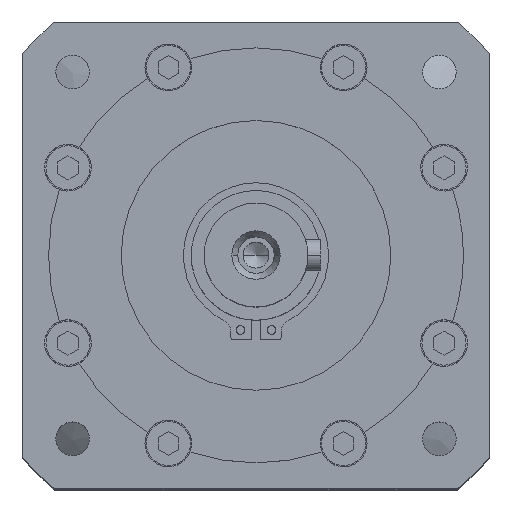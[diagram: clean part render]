
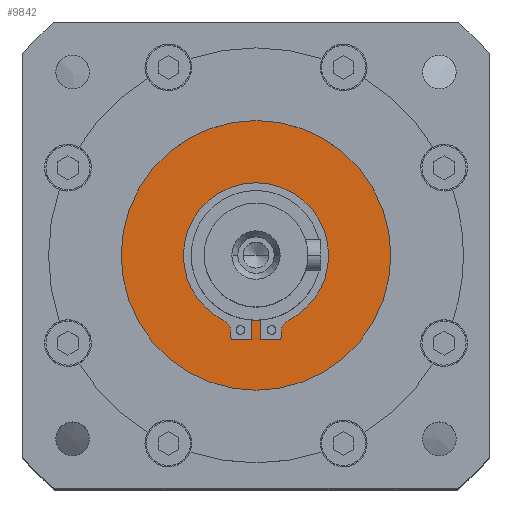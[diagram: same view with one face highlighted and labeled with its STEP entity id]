
A CAD part, top view. The second image highlights one B-rep face of the part: STEP entity #9842.
In plain terms, the highlighted planar face has unit normal (0, 0, 1).
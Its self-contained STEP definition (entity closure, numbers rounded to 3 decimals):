
#65 = ORIENTED_EDGE ( 'NONE', *, *, #7289, .F. ) ;
#89 = DIRECTION ( 'NONE',  ( 1., 0., 0. ) ) ;
#265 = ORIENTED_EDGE ( 'NONE', *, *, #21924, .F. ) ;
#488 = VERTEX_POINT ( 'NONE', #16577 ) ;
#662 = EDGE_CURVE ( 'NONE', #33881, #4676, #13070, .T. ) ;
#1278 = VECTOR ( 'NONE', #43648, 1000. ) ;
#1574 = DIRECTION ( 'NONE',  ( -1., 0., 0. ) ) ;
#1916 = ORIENTED_EDGE ( 'NONE', *, *, #36911, .F. ) ;
#2053 = DIRECTION ( 'NONE',  ( 0., 0., 1. ) ) ;
#2563 = VECTOR ( 'NONE', #11032, 1000. ) ;
#2953 = LINE ( 'NONE', #37820, #30854 ) ;
#3132 = VERTEX_POINT ( 'NONE', #44841 ) ;
#3639 = CARTESIAN_POINT ( 'NONE',  ( 4.85, 0., -2.5 ) ) ;
#3678 = LINE ( 'NONE', #3697, #2563 ) ;
#3697 = CARTESIAN_POINT ( 'NONE',  ( 0., -16.271, -2.5 ) ) ;
#4063 = DIRECTION ( 'NONE',  ( 0., -1., 0. ) ) ;
#4676 = VERTEX_POINT ( 'NONE', #22141 ) ;
#4718 = EDGE_CURVE ( 'NONE', #17378, #30453, #9971, .T. ) ;
#5019 = CARTESIAN_POINT ( 'NONE',  ( 0.85, -12.471, -2.5 ) ) ;
#5221 = AXIS2_PLACEMENT_3D ( 'NONE', #45286, #41747, #19936 ) ;
#6482 = VECTOR ( 'NONE', #4063, 1000. ) ;
#7289 = EDGE_CURVE ( 'NONE', #28209, #11362, #31799, .T. ) ;
#7810 = CARTESIAN_POINT ( 'NONE',  ( -7.35, -14.773, -2.5 ) ) ;
#8054 = ORIENTED_EDGE ( 'NONE', *, *, #36641, .F. ) ;
#8396 = CARTESIAN_POINT ( 'NONE',  ( 0.85, -16.271, -2.5 ) ) ;
#8451 = ORIENTED_EDGE ( 'NONE', *, *, #41977, .F. ) ;
#8744 = CARTESIAN_POINT ( 'NONE',  ( -0.85, -12.471, -2.5 ) ) ;
#8777 = CIRCLE ( 'NONE', #9508, 0.5 ) ;
#8873 = AXIS2_PLACEMENT_3D ( 'NONE', #32704, #10916, #36369 ) ;
#9294 = ORIENTED_EDGE ( 'NONE', *, *, #662, .T. ) ;
#9508 = AXIS2_PLACEMENT_3D ( 'NONE', #12225, #37668, #15893 ) ;
#9656 = ORIENTED_EDGE ( 'NONE', *, *, #13718, .F. ) ;
#9842 = ADVANCED_FACE ( 'NONE', ( #22574, #40799 ), #38069, .F. ) ;
#9971 = LINE ( 'NONE', #40282, #37857 ) ;
#10133 = VERTEX_POINT ( 'NONE', #26243 ) ;
#10299 = CARTESIAN_POINT ( 'NONE',  ( 26., 0., -2.5 ) ) ;
#10916 = DIRECTION ( 'NONE',  ( 0., 0., 1. ) ) ;
#11023 = EDGE_CURVE ( 'NONE', #46406, #28209, #3678, .T. ) ;
#11032 = DIRECTION ( 'NONE',  ( 1., 0., 0. ) ) ;
#11152 = DIRECTION ( 'NONE',  ( 0., 1., 0. ) ) ;
#11362 = VERTEX_POINT ( 'NONE', #27379 ) ;
#11470 = DIRECTION ( 'NONE',  ( -1., 0., 0. ) ) ;
#12225 = CARTESIAN_POINT ( 'NONE',  ( -4.35, -15.771, -2.5 ) ) ;
#12287 = DIRECTION ( 'NONE',  ( 0., 0., 1. ) ) ;
#12324 = AXIS2_PLACEMENT_3D ( 'NONE', #43770, #21922, #89 ) ;
#12382 = AXIS2_PLACEMENT_3D ( 'NONE', #13816, #39255, #17462 ) ;
#13070 = CIRCLE ( 'NONE', #20183, 26. ) ;
#13221 = EDGE_LOOP ( 'NONE', ( #9656, #19586, #16588, #8054, #22716, #8451, #265, #40372, #1916, #65, #41884, #31838, #46533, #36932 ) ) ;
#13718 = EDGE_CURVE ( 'NONE', #15017, #17378, #2953, .T. ) ;
#13807 = EDGE_LOOP ( 'NONE', ( #9294, #36450 ) ) ;
#13816 = CARTESIAN_POINT ( 'NONE',  ( 0., 0., -2.5 ) ) ;
#14234 = VERTEX_POINT ( 'NONE', #44973 ) ;
#15017 = VERTEX_POINT ( 'NONE', #34908 ) ;
#15501 = CARTESIAN_POINT ( 'NONE',  ( 4.85, -14.773, -2.5 ) ) ;
#15645 = CIRCLE ( 'NONE', #33838, 14. ) ;
#15893 = DIRECTION ( 'NONE',  ( -1., 0., 0. ) ) ;
#16201 = LINE ( 'NONE', #33169, #6482 ) ;
#16577 = CARTESIAN_POINT ( 'NONE',  ( -6.236, -12.534, -2.5 ) ) ;
#16588 = ORIENTED_EDGE ( 'NONE', *, *, #42269, .F. ) ;
#17378 = VERTEX_POINT ( 'NONE', #34172 ) ;
#17462 = DIRECTION ( 'NONE',  ( -1., 0., 0. ) ) ;
#18337 = DIRECTION ( 'NONE',  ( 0., 0., -1. ) ) ;
#18864 = CARTESIAN_POINT ( 'NONE',  ( 0.85, 0., -2.5 ) ) ;
#18967 = EDGE_CURVE ( 'NONE', #4676, #33881, #42110, .T. ) ;
#18983 = CIRCLE ( 'NONE', #23723, 2.5 ) ;
#19586 = ORIENTED_EDGE ( 'NONE', *, *, #41208, .F. ) ;
#19838 = VERTEX_POINT ( 'NONE', #23094 ) ;
#19936 = DIRECTION ( 'NONE',  ( -1., 0., 0. ) ) ;
#20183 = AXIS2_PLACEMENT_3D ( 'NONE', #34047, #12287, #37732 ) ;
#20329 = DIRECTION ( 'NONE',  ( 0., 0., 1. ) ) ;
#21922 = DIRECTION ( 'NONE',  ( 0., 0., 1. ) ) ;
#21924 = EDGE_CURVE ( 'NONE', #10133, #34770, #41930, .T. ) ;
#22141 = CARTESIAN_POINT ( 'NONE',  ( -26., 0., -2.5 ) ) ;
#22535 = DIRECTION ( 'NONE',  ( 0., -1., 0. ) ) ;
#22574 = FACE_BOUND ( 'NONE', #13221, .T. ) ;
#22716 = ORIENTED_EDGE ( 'NONE', *, *, #40182, .F. ) ;
#23094 = CARTESIAN_POINT ( 'NONE',  ( -4.85, -14.773, -2.5 ) ) ;
#23374 = DIRECTION ( 'NONE',  ( 0., 0., 1. ) ) ;
#23723 = AXIS2_PLACEMENT_3D ( 'NONE', #40127, #18337, #43840 ) ;
#23863 = CARTESIAN_POINT ( 'NONE',  ( 0., 0., -2.5 ) ) ;
#24222 = CIRCLE ( 'NONE', #8873, 14. ) ;
#25028 = CIRCLE ( 'NONE', #44040, 12.5 ) ;
#26243 = CARTESIAN_POINT ( 'NONE',  ( 6.236, -12.534, -2.5 ) ) ;
#27379 = CARTESIAN_POINT ( 'NONE',  ( 4.85, -15.771, -2.5 ) ) ;
#27500 = DIRECTION ( 'NONE',  ( -1., 0., 0. ) ) ;
#28209 = VERTEX_POINT ( 'NONE', #30415 ) ;
#29468 = VERTEX_POINT ( 'NONE', #5019 ) ;
#30415 = CARTESIAN_POINT ( 'NONE',  ( 4.35, -16.271, -2.5 ) ) ;
#30453 = VERTEX_POINT ( 'NONE', #8744 ) ;
#30475 = EDGE_CURVE ( 'NONE', #30453, #29468, #25028, .T. ) ;
#30854 = VECTOR ( 'NONE', #41342, 1000. ) ;
#31328 = CARTESIAN_POINT ( 'NONE',  ( 14., 0., -2.5 ) ) ;
#31355 = VERTEX_POINT ( 'NONE', #15501 ) ;
#31494 = LINE ( 'NONE', #18864, #33765 ) ;
#31799 = CIRCLE ( 'NONE', #34432, 0.5 ) ;
#31838 = ORIENTED_EDGE ( 'NONE', *, *, #41701, .F. ) ;
#32704 = CARTESIAN_POINT ( 'NONE',  ( 0., 0., -2.5 ) ) ;
#33169 = CARTESIAN_POINT ( 'NONE',  ( -4.85, 0., -2.5 ) ) ;
#33247 = DIRECTION ( 'NONE',  ( 0., 0., -1. ) ) ;
#33425 = AXIS2_PLACEMENT_3D ( 'NONE', #7810, #33247, #11470 ) ;
#33765 = VECTOR ( 'NONE', #22535, 1000. ) ;
#33838 = AXIS2_PLACEMENT_3D ( 'NONE', #45239, #23374, #1574 ) ;
#33881 = VERTEX_POINT ( 'NONE', #10299 ) ;
#34047 = CARTESIAN_POINT ( 'NONE',  ( 0., 0., -2.5 ) ) ;
#34172 = CARTESIAN_POINT ( 'NONE',  ( -0.85, -16.271, -2.5 ) ) ;
#34432 = AXIS2_PLACEMENT_3D ( 'NONE', #42149, #20329, #45838 ) ;
#34770 = VERTEX_POINT ( 'NONE', #31328 ) ;
#34908 = CARTESIAN_POINT ( 'NONE',  ( -4.35, -16.271, -2.5 ) ) ;
#36036 = CIRCLE ( 'NONE', #33425, 2.5 ) ;
#36369 = DIRECTION ( 'NONE',  ( -1., 0., 0. ) ) ;
#36450 = ORIENTED_EDGE ( 'NONE', *, *, #18967, .T. ) ;
#36596 = EDGE_CURVE ( 'NONE', #31355, #10133, #18983, .T. ) ;
#36641 = EDGE_CURVE ( 'NONE', #488, #19838, #36036, .T. ) ;
#36911 = EDGE_CURVE ( 'NONE', #11362, #31355, #40015, .T. ) ;
#36932 = ORIENTED_EDGE ( 'NONE', *, *, #4718, .F. ) ;
#37668 = DIRECTION ( 'NONE',  ( 0., 0., 1. ) ) ;
#37732 = DIRECTION ( 'NONE',  ( 1., 0., 0. ) ) ;
#37820 = CARTESIAN_POINT ( 'NONE',  ( 0., -16.271, -2.5 ) ) ;
#37857 = VECTOR ( 'NONE', #11152, 1000. ) ;
#38069 = PLANE ( 'NONE',  #5221 ) ;
#39255 = DIRECTION ( 'NONE',  ( 0., 0., 1. ) ) ;
#40015 = LINE ( 'NONE', #3639, #1278 ) ;
#40127 = CARTESIAN_POINT ( 'NONE',  ( 7.35, -14.773, -2.5 ) ) ;
#40182 = EDGE_CURVE ( 'NONE', #14234, #488, #24222, .T. ) ;
#40282 = CARTESIAN_POINT ( 'NONE',  ( -0.85, 0., -2.5 ) ) ;
#40372 = ORIENTED_EDGE ( 'NONE', *, *, #36596, .F. ) ;
#40799 = FACE_OUTER_BOUND ( 'NONE', #13807, .T. ) ;
#41208 = EDGE_CURVE ( 'NONE', #3132, #15017, #8777, .T. ) ;
#41342 = DIRECTION ( 'NONE',  ( 1., 0., 0. ) ) ;
#41701 = EDGE_CURVE ( 'NONE', #29468, #46406, #31494, .T. ) ;
#41747 = DIRECTION ( 'NONE',  ( 0., 0., -1. ) ) ;
#41884 = ORIENTED_EDGE ( 'NONE', *, *, #11023, .F. ) ;
#41930 = CIRCLE ( 'NONE', #12382, 14. ) ;
#41977 = EDGE_CURVE ( 'NONE', #34770, #14234, #15645, .T. ) ;
#42110 = CIRCLE ( 'NONE', #12324, 26. ) ;
#42149 = CARTESIAN_POINT ( 'NONE',  ( 4.35, -15.771, -2.5 ) ) ;
#42269 = EDGE_CURVE ( 'NONE', #19838, #3132, #16201, .T. ) ;
#43648 = DIRECTION ( 'NONE',  ( 0., 1., 0. ) ) ;
#43770 = CARTESIAN_POINT ( 'NONE',  ( 0., 0., -2.5 ) ) ;
#43840 = DIRECTION ( 'NONE',  ( -1., 0., 0. ) ) ;
#44040 = AXIS2_PLACEMENT_3D ( 'NONE', #23863, #2053, #27500 ) ;
#44841 = CARTESIAN_POINT ( 'NONE',  ( -4.85, -15.771, -2.5 ) ) ;
#44973 = CARTESIAN_POINT ( 'NONE',  ( -14., 0., -2.5 ) ) ;
#45239 = CARTESIAN_POINT ( 'NONE',  ( 0., 0., -2.5 ) ) ;
#45286 = CARTESIAN_POINT ( 'NONE',  ( 0., 0., -2.5 ) ) ;
#45838 = DIRECTION ( 'NONE',  ( -1., 0., 0. ) ) ;
#46406 = VERTEX_POINT ( 'NONE', #8396 ) ;
#46533 = ORIENTED_EDGE ( 'NONE', *, *, #30475, .F. ) ;
